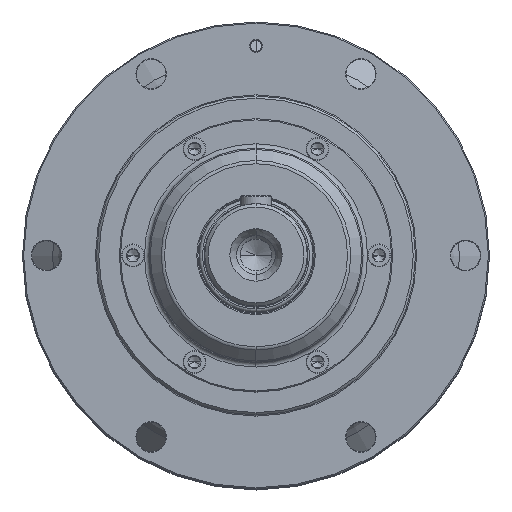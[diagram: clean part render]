
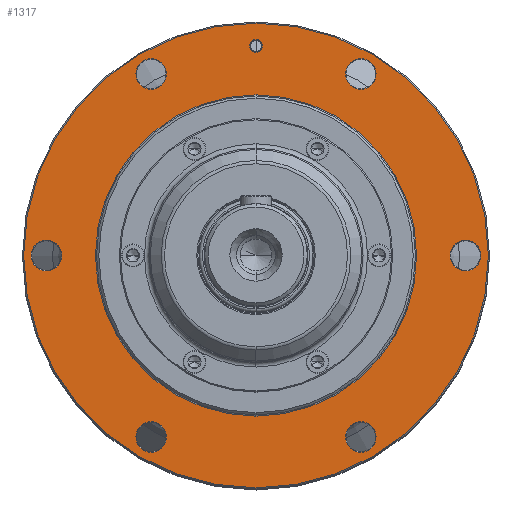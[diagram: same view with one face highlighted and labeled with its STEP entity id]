
A CAD part, top view. The second image highlights one B-rep face of the part: STEP entity #1317.
In plain terms, the highlighted planar face has unit normal (0, 0, 1).
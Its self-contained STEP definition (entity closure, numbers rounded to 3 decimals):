
#230=CARTESIAN_POINT('',(0.,0.,211.8));
#231=DIRECTION('',(0.,0.,1.));
#232=DIRECTION('',(0.,1.,0.));
#233=AXIS2_PLACEMENT_3D('',#230,#231,#232);
#235=CARTESIAN_POINT('',(0.,0.,211.8));
#236=DIRECTION('',(0.,0.,1.));
#237=DIRECTION('',(0.,-1.,0.));
#238=AXIS2_PLACEMENT_3D('',#235,#236,#237);
#240=CARTESIAN_POINT('',(92.,0.,211.8));
#241=DIRECTION('',(0.,0.,-1.));
#242=DIRECTION('',(-0.5,0.866,0.));
#243=AXIS2_PLACEMENT_3D('',#240,#241,#242);
#245=CARTESIAN_POINT('',(92.,0.,211.8));
#246=DIRECTION('',(0.,0.,-1.));
#247=DIRECTION('',(0.5,-0.866,0.));
#248=AXIS2_PLACEMENT_3D('',#245,#246,#247);
#250=CARTESIAN_POINT('',(46.,-79.674,211.8));
#251=DIRECTION('',(0.,0.,-1.));
#252=DIRECTION('',(-0.5,-0.866,0.));
#253=AXIS2_PLACEMENT_3D('',#250,#251,#252);
#255=CARTESIAN_POINT('',(46.,-79.674,211.8));
#256=DIRECTION('',(0.,0.,-1.));
#257=DIRECTION('',(0.5,0.866,0.));
#258=AXIS2_PLACEMENT_3D('',#255,#256,#257);
#260=CARTESIAN_POINT('',(-46.,-79.674,211.8));
#261=DIRECTION('',(0.,0.,-1.));
#262=DIRECTION('',(1.,0.,0.));
#263=AXIS2_PLACEMENT_3D('',#260,#261,#262);
#265=CARTESIAN_POINT('',(-46.,-79.674,211.8));
#266=DIRECTION('',(0.,0.,-1.));
#267=DIRECTION('',(-1.,0.,0.));
#268=AXIS2_PLACEMENT_3D('',#265,#266,#267);
#270=CARTESIAN_POINT('',(-92.,0.,211.8));
#271=DIRECTION('',(0.,0.,-1.));
#272=DIRECTION('',(0.5,-0.866,0.));
#273=AXIS2_PLACEMENT_3D('',#270,#271,#272);
#275=CARTESIAN_POINT('',(-92.,0.,211.8));
#276=DIRECTION('',(0.,0.,-1.));
#277=DIRECTION('',(-0.5,0.866,0.));
#278=AXIS2_PLACEMENT_3D('',#275,#276,#277);
#280=CARTESIAN_POINT('',(-46.,79.674,211.8));
#281=DIRECTION('',(0.,0.,-1.));
#282=DIRECTION('',(-0.5,-0.866,0.));
#283=AXIS2_PLACEMENT_3D('',#280,#281,#282);
#285=CARTESIAN_POINT('',(-46.,79.674,211.8));
#286=DIRECTION('',(0.,0.,-1.));
#287=DIRECTION('',(0.5,0.866,0.));
#288=AXIS2_PLACEMENT_3D('',#285,#286,#287);
#290=CARTESIAN_POINT('',(46.,79.674,211.8));
#291=DIRECTION('',(0.,0.,-1.));
#292=DIRECTION('',(1.,0.,0.));
#293=AXIS2_PLACEMENT_3D('',#290,#291,#292);
#295=CARTESIAN_POINT('',(46.,79.674,211.8));
#296=DIRECTION('',(0.,0.,-1.));
#297=DIRECTION('',(-1.,0.,0.));
#298=AXIS2_PLACEMENT_3D('',#295,#296,#297);
#300=CARTESIAN_POINT('',(0.,92.,211.8));
#301=DIRECTION('',(0.,0.,-1.));
#302=DIRECTION('',(-1.,0.,0.));
#303=AXIS2_PLACEMENT_3D('',#300,#301,#302);
#305=CARTESIAN_POINT('',(0.,92.,211.8));
#306=DIRECTION('',(0.,0.,-1.));
#307=DIRECTION('',(1.,0.,0.));
#308=AXIS2_PLACEMENT_3D('',#305,#306,#307);
#310=CARTESIAN_POINT('',(0.,0.,211.8));
#311=DIRECTION('',(0.,0.,-1.));
#312=DIRECTION('',(0.,-1.,0.));
#313=AXIS2_PLACEMENT_3D('',#310,#311,#312);
#315=CARTESIAN_POINT('',(0.,0.,211.8));
#316=DIRECTION('',(0.,0.,-1.));
#317=DIRECTION('',(0.,1.,0.));
#318=AXIS2_PLACEMENT_3D('',#315,#316,#317);
#808=CARTESIAN_POINT('',(0.,102.,211.8));
#809=CARTESIAN_POINT('',(0.,-102.,211.8));
#810=VERTEX_POINT('',#808);
#811=VERTEX_POINT('',#809);
#824=CARTESIAN_POINT('',(88.65,5.802,211.8));
#825=CARTESIAN_POINT('',(95.35,-5.802,211.8));
#826=VERTEX_POINT('',#824);
#827=VERTEX_POINT('',#825);
#832=CARTESIAN_POINT('',(42.65,-85.477,211.8));
#833=CARTESIAN_POINT('',(49.35,-73.872,211.8));
#834=VERTEX_POINT('',#832);
#835=VERTEX_POINT('',#833);
#840=CARTESIAN_POINT('',(-39.3,-79.674,211.8));
#841=CARTESIAN_POINT('',(-52.7,-79.674,211.8));
#842=VERTEX_POINT('',#840);
#843=VERTEX_POINT('',#841);
#848=CARTESIAN_POINT('',(-88.65,-5.802,211.8));
#849=CARTESIAN_POINT('',(-95.35,5.802,211.8));
#850=VERTEX_POINT('',#848);
#851=VERTEX_POINT('',#849);
#856=CARTESIAN_POINT('',(-49.35,73.872,211.8));
#857=CARTESIAN_POINT('',(-42.65,85.477,211.8));
#858=VERTEX_POINT('',#856);
#859=VERTEX_POINT('',#857);
#864=CARTESIAN_POINT('',(52.7,79.674,211.8));
#865=CARTESIAN_POINT('',(39.3,79.674,211.8));
#866=VERTEX_POINT('',#864);
#867=VERTEX_POINT('',#865);
#968=CARTESIAN_POINT('',(-2.8,92.,211.8));
#969=CARTESIAN_POINT('',(2.8,92.,211.8));
#970=VERTEX_POINT('',#968);
#971=VERTEX_POINT('',#969);
#988=CARTESIAN_POINT('',(0.,-70.5,211.8));
#989=CARTESIAN_POINT('',(0.,70.5,211.8));
#990=VERTEX_POINT('',#988);
#991=VERTEX_POINT('',#989);
#1259=CARTESIAN_POINT('',(0.,0.,211.8));
#1260=DIRECTION('',(0.,0.,-1.));
#1261=DIRECTION('',(0.,-1.,0.));
#1262=AXIS2_PLACEMENT_3D('',#1259,#1260,#1261);
#1263=PLANE('',#1262);
#1264=ORIENTED_EDGE('',*,*,#1249,.F.);
#1266=ORIENTED_EDGE('',*,*,#1265,.F.);
#1267=EDGE_LOOP('',(#1264,#1266));
#1268=FACE_OUTER_BOUND('',#1267,.F.);
#1270=ORIENTED_EDGE('',*,*,#1269,.F.);
#1272=ORIENTED_EDGE('',*,*,#1271,.F.);
#1273=EDGE_LOOP('',(#1270,#1272));
#1274=FACE_BOUND('',#1273,.F.);
#1276=ORIENTED_EDGE('',*,*,#1275,.F.);
#1278=ORIENTED_EDGE('',*,*,#1277,.F.);
#1279=EDGE_LOOP('',(#1276,#1278));
#1280=FACE_BOUND('',#1279,.F.);
#1282=ORIENTED_EDGE('',*,*,#1281,.F.);
#1284=ORIENTED_EDGE('',*,*,#1283,.F.);
#1285=EDGE_LOOP('',(#1282,#1284));
#1286=FACE_BOUND('',#1285,.F.);
#1288=ORIENTED_EDGE('',*,*,#1287,.F.);
#1290=ORIENTED_EDGE('',*,*,#1289,.F.);
#1291=EDGE_LOOP('',(#1288,#1290));
#1292=FACE_BOUND('',#1291,.F.);
#1294=ORIENTED_EDGE('',*,*,#1293,.F.);
#1296=ORIENTED_EDGE('',*,*,#1295,.F.);
#1297=EDGE_LOOP('',(#1294,#1296));
#1298=FACE_BOUND('',#1297,.F.);
#1300=ORIENTED_EDGE('',*,*,#1299,.F.);
#1302=ORIENTED_EDGE('',*,*,#1301,.F.);
#1303=EDGE_LOOP('',(#1300,#1302));
#1304=FACE_BOUND('',#1303,.F.);
#1306=ORIENTED_EDGE('',*,*,#1305,.F.);
#1308=ORIENTED_EDGE('',*,*,#1307,.F.);
#1309=EDGE_LOOP('',(#1306,#1308));
#1310=FACE_BOUND('',#1309,.F.);
#1312=ORIENTED_EDGE('',*,*,#1311,.F.);
#1314=ORIENTED_EDGE('',*,*,#1313,.F.);
#1315=EDGE_LOOP('',(#1312,#1314));
#1316=FACE_BOUND('',#1315,.F.);
#234=CIRCLE('',#233,102.);
#239=CIRCLE('',#238,102.);
#244=CIRCLE('',#243,6.7);
#249=CIRCLE('',#248,6.7);
#254=CIRCLE('',#253,6.7);
#259=CIRCLE('',#258,6.7);
#264=CIRCLE('',#263,6.7);
#269=CIRCLE('',#268,6.7);
#274=CIRCLE('',#273,6.7);
#279=CIRCLE('',#278,6.7);
#284=CIRCLE('',#283,6.7);
#289=CIRCLE('',#288,6.7);
#294=CIRCLE('',#293,6.7);
#299=CIRCLE('',#298,6.7);
#304=CIRCLE('',#303,2.8);
#309=CIRCLE('',#308,2.8);
#314=CIRCLE('',#313,70.5);
#319=CIRCLE('',#318,70.5);
#1249=EDGE_CURVE('',#810,#811,#234,.T.);
#1265=EDGE_CURVE('',#811,#810,#239,.T.);
#1269=EDGE_CURVE('',#826,#827,#244,.T.);
#1271=EDGE_CURVE('',#827,#826,#249,.T.);
#1275=EDGE_CURVE('',#834,#835,#254,.T.);
#1277=EDGE_CURVE('',#835,#834,#259,.T.);
#1281=EDGE_CURVE('',#842,#843,#264,.T.);
#1283=EDGE_CURVE('',#843,#842,#269,.T.);
#1287=EDGE_CURVE('',#850,#851,#274,.T.);
#1289=EDGE_CURVE('',#851,#850,#279,.T.);
#1293=EDGE_CURVE('',#858,#859,#284,.T.);
#1295=EDGE_CURVE('',#859,#858,#289,.T.);
#1299=EDGE_CURVE('',#866,#867,#294,.T.);
#1301=EDGE_CURVE('',#867,#866,#299,.T.);
#1305=EDGE_CURVE('',#970,#971,#304,.T.);
#1307=EDGE_CURVE('',#971,#970,#309,.T.);
#1311=EDGE_CURVE('',#990,#991,#314,.T.);
#1313=EDGE_CURVE('',#991,#990,#319,.T.);
#1317=ADVANCED_FACE('',(#1268,#1274,#1280,#1286,#1292,#1298,#1304,#1310,#1316),
#1263,.F.);
